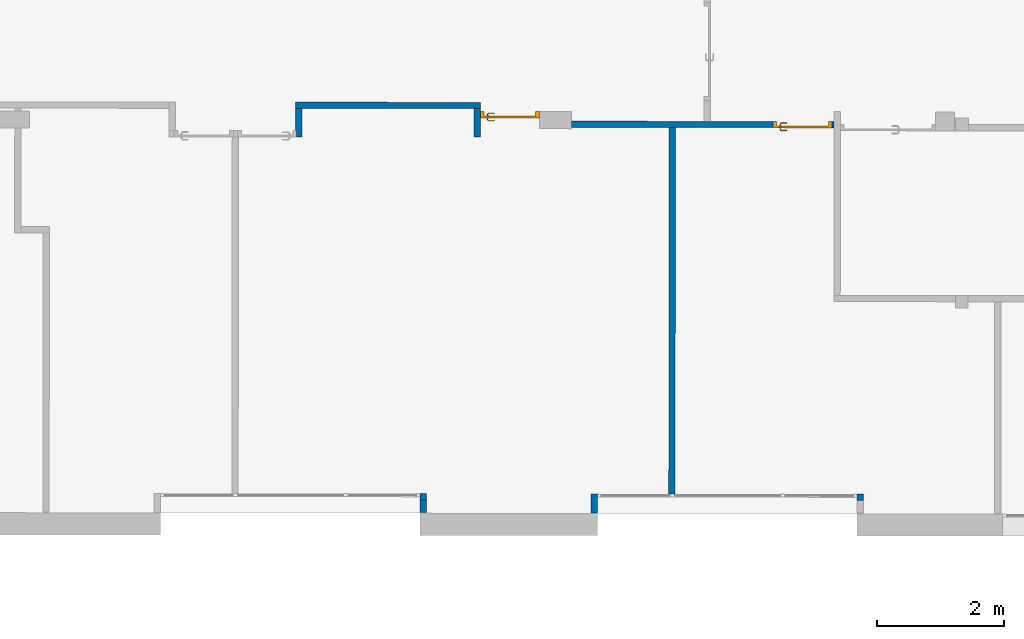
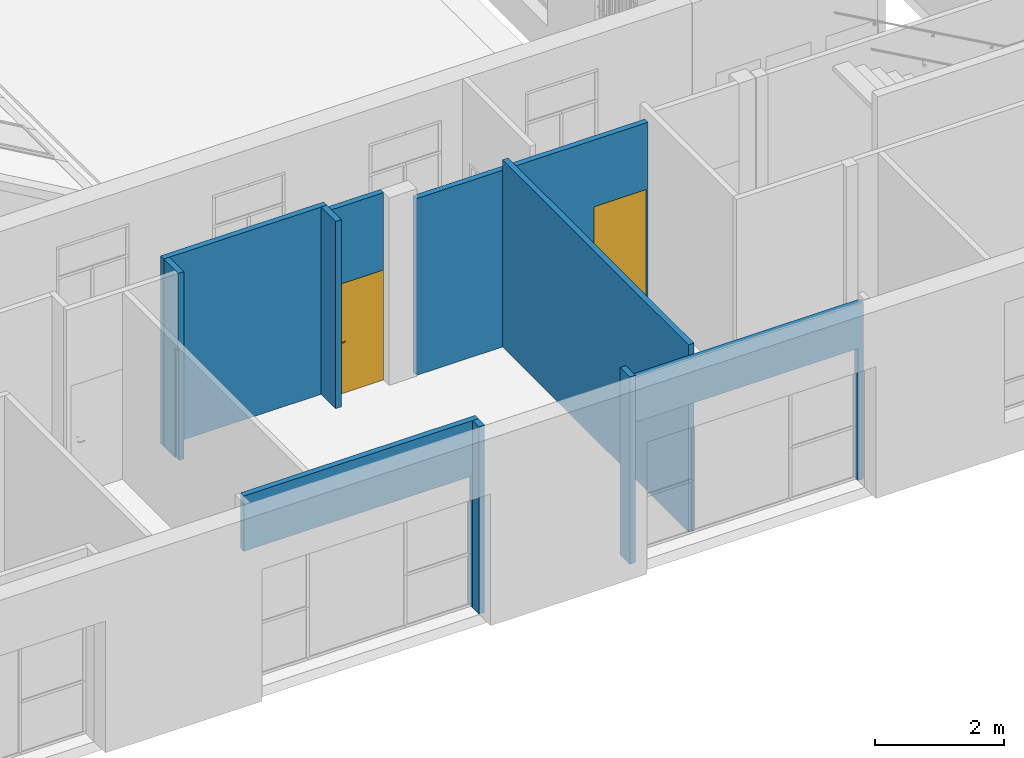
# One storey, part 58 of 101: 10 walls, 2 doors, 6 openings.
"""IFC2X3 building model written with IfcOpenShell, lengths in metres."""

from ifc_helpers import new_model, entity, si_unit, converted_unit, derived_unit, direction, frame, frame_2d, origin, place, context, subcontext, project, spatial, polyline, rectangle, extrude, clip, bounded_halfspace, faceted_brep, source, transform, mapped, material, material_list, layer, layer_set, layer_usage, type_object, type_shapes, element, fill, save


model = new_model("IFC2X3")

# Units and contexts
model_context = context("Model", 3, precision=1e-05, world=origin(), true_north=direction((6.123233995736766e-17, 1.0)))
body_context = subcontext(model_context, "Body", "Model", "MODEL_VIEW")
ifc_project = project(units=[si_unit("LENGTHUNIT", "METRE"), si_unit("AREAUNIT", "SQUARE_METRE"), converted_unit("PLANEANGLEUNIT", "DEGREE", entity("IfcPlaneAngleMeasure", 0.017453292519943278), si_unit("PLANEANGLEUNIT", "RADIAN"), dimensions=[0, 0, 0, 0, 0, 0, 0]), derived_unit("THERMALTRANSMITTANCEUNIT", [(si_unit("MASSUNIT", "GRAM", prefix="KILO"), 1), (si_unit("THERMODYNAMICTEMPERATUREUNIT", "KELVIN"), -1), (si_unit("TIMEUNIT", "SECOND"), -3)])], contexts=[model_context])

# Site, building, storey
site_placement = place(None, frame((1253.6752467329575, 2072.143113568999, 91.49999999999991), z_axis=(0.0, 0.0, 1.0), x_axis=(0.7237211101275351, 0.6900925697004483, 0.0)))
site = spatial("IfcSite", under=ifc_project, at=site_placement, Name="Surface", CompositionType="ELEMENT")
building_placement = place(site_placement, origin())
building = spatial("IfcBuilding", under=site, at=building_placement, CompositionType="ELEMENT")
storey_placement = place(building_placement, origin())
storey = spatial("IfcBuildingStorey", under=building, at=storey_placement, Name="0- Rdc", CompositionType="ELEMENT", Elevation=-5.764692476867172e-13)

# Wall
ifc_material_1 = material(Name="OMD_Béton blanc")
ifc_layer = layer(ifc_material_1, 0.1)
ifc_layer_set = layer_set([ifc_layer], Name="Mur de base:MUR 10")
ifc_layer_usage_1 = layer_usage(ifc_layer_set, "AXIS2", "NEGATIVE", 0.05)
wall_type = type_object("IfcWallType", Name="Mur de base:MUR 10", PredefinedType="STANDARD", material=ifc_layer_set)
wall_1_placement = place(storey_placement, frame((170.40102624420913, -12.305099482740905, 0.0), z_axis=(0.0, 0.0, 1.0), x_axis=(-0.6909838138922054, -0.7228702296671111, 0.0)))
element("IfcWallStandardCase", 1, at=wall_1_placement, inside=storey, type_object=wall_type, material=ifc_layer_usage_1, Name="Mur de base:MUR 10", ObjectType="Mur de base:MUR 10", context=body_context, shape_type="SweptSolid", body=[
    extrude(rectangle(XDim=5.7850000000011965, YDim=0.10000000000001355, at=frame_2d((2.8925000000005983, 6.106226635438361e-16), x_axis=(-1.0, 0.0))), origin(), (0.0, 0.0, 1.0), 3.5499999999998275),
])

# Wall, opening, door
ifc_layer_usage_2 = layer_usage(ifc_layer_set, "AXIS2", "NEGATIVE", 0.05)
wall_2_placement = place(storey_placement, frame((172.28250887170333, -14.034419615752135, 0.0), z_axis=(0.0, 0.0, 1.0), x_axis=(-0.7228702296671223, 0.6909838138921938, 0.0)))
wall_2 = element("IfcWallStandardCase", 2, at=wall_2_placement, inside=storey, type_object=wall_type, material=ifc_layer_usage_2, Name="Mur de base:MUR 10", ObjectType="Mur de base:MUR 10", context=body_context, shape_type="Clipping", body=[
    clip(extrude(rectangle(XDim=4.1500000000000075, YDim=0.10000000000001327, at=frame_2d((2.0750000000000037, 3.434752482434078e-16), x_axis=(-1.0, 0.0))), origin(), (0.0, 0.0, 1.0), 3.3499999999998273), bounded_halfspace(frame((0.0, -0.049999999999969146, 3.3499999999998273), z_axis=(0.0, 0.0, -1.0), x_axis=(0.0, 1.0, 0.0)), True, frame((0.0, -0.049999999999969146, 3.3499999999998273)), polyline([(0.0, 0.0), (4.150000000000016, 0.0), (4.150000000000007, 0.09999999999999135), (0.0, 0.0999999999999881), (0.0, 0.0)]))),
])
opening_1_placement = place(wall_2_placement, frame((0.032500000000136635, -0.04999999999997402, 0.0)))
opening_1 = element("IfcOpeningElement", 3, at=opening_1_placement, cuts=wall_2, Name="OMD_Porte 1V tunnel:80x204:1", ObjectType="Opening", context=body_context, shape_type="SweptSolid", body=[
    extrude(rectangle(XDim=2.0850000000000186, YDim=0.9349999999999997, at=frame_2d((1.0425000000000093, 0.46749999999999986), x_axis=(1.0, 0.0))), frame((0.0, 0.0, 0.0), z_axis=(0.0, 1.0, 0.0), x_axis=(0.0, 0.0, 1.0)), (0.0, 0.0, 1.0), 0.1),
])
ifc_material_2 = material(Name="Porte - Poignée")
ifc_material_3 = material(Name="OMD_Peinture mur")
ifc_material_4 = material(Name="OMD_Bois")
ifc_material_list = material_list([ifc_material_2, ifc_material_3, ifc_material_4])
door_style = type_object("IfcDoorStyle", Name="OMD_Porte 1V tunnel:80x204", ConstructionType="NOTDEFINED", OperationType="NOTDEFINED", ParameterTakesPrecedence=False, Sizeable=False, material=ifc_material_list)
shared_shape = source(origin(), body_context, "Body", "Brep", [
    faceted_brep([(0.21297470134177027, 0.03500000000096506, 1.0077804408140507), (0.20900000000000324, 0.03500000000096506, 1.0069999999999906), (0.208999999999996, 0.03500000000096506, 0.9929999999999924), (0.21297470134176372, 0.03500000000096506, 0.9922195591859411), (0.21702529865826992, 0.03500000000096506, 0.9922195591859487), (0.22100000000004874, 0.03500000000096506, 0.9930000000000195), (0.22100000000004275, 0.03500000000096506, 1.0069999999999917), (0.2170252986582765, 0.03500000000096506, 1.007780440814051), (0.22100000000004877, 0.05748520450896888, 0.9930000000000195), (0.22100000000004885, 0.057485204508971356, 1.0069999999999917), (0.21702529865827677, 0.059131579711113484, 1.007780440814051), (0.23083890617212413, 0.07294518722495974, 1.007780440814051), (0.2291610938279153, 0.07699578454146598, 1.0077804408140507), (0.21297470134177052, 0.060809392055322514, 1.0077804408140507), (0.3206847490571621, 0.0664673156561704, 1.0077804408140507), (0.32354895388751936, 0.06933152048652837, 1.0077804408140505), (0.31588468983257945, 0.07699578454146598, 1.0077804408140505), (0.31420687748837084, 0.07294518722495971, 1.0077804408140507), (0.20900000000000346, 0.06245576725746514, 1.0069999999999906), (0.20900000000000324, 0.06245576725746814, 0.9929999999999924), (0.21297470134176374, 0.06080939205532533, 0.9922195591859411), (0.22916109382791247, 0.07699578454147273, 0.9922195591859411), (0.23083890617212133, 0.07294518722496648, 0.9922195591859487), (0.21702529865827, 0.05913157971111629, 0.9922195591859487), (0.32354895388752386, 0.06933152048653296, 0.9922195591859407), (0.3206847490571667, 0.06646731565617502, 0.9922195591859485), (0.3142068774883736, 0.07294518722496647, 0.9922195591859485), (0.3158846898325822, 0.07699578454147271, 0.9922195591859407), (0.23248528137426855, 0.0689704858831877, 0.9930000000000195), (0.23248528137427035, 0.06897048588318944, 1.0069999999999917), (0.22751471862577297, 0.0809704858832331, 1.0069999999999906), (0.22751471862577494, 0.08097048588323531, 0.9929999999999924), (0.2725228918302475, 0.06897048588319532, 0.9930000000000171), (0.3125605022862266, 0.06897048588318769, 0.9930000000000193), (0.31256050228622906, 0.06897048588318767, 1.0069999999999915), (0.2725228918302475, 0.0689704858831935, 1.0069999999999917), (0.2725228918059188, 0.07512492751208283, 1.0078781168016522), (0.31753106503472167, 0.08097048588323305, 1.0069999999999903), (0.2776005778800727, 0.08097048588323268, 1.0069999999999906), (0.31753106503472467, 0.08097048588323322, 0.9929999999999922), (0.2674452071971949, 0.08097048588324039, 0.9929999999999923), (0.2725228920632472, 0.07512492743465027, 0.9921218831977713), (0.317874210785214, 0.06365677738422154, 0.9930000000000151), (0.32635949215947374, 0.07214205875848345, 0.99299999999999), (0.3263594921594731, 0.07214205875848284, 1.0069999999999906), (0.317874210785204, 0.06365677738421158, 1.0069999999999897)], [[[0, 1, 2, 3, 4, 5, 6, 7]], [[6, 5, 8, 9]], [[9, 10, 7, 6]], [[10, 11, 12, 13, 0, 7]], [[14, 15, 16, 17]], [[13, 18, 1, 0]], [[2, 1, 18, 19]], [[19, 20, 3, 2]], [[20, 21, 22, 23, 4, 3]], [[24, 25, 26, 27]], [[23, 8, 5, 4]], [[9, 8, 28, 29]], [[29, 11, 10, 9]], [[12, 30, 18, 13]], [[19, 18, 30, 31]], [[31, 21, 20, 19]], [[22, 28, 8, 23]], [[29, 28, 32, 33, 34, 35]], [[11, 35, 36]], [[16, 37, 38]], [[30, 12, 38]], [[38, 12, 36]], [[36, 35, 17]], [[17, 16, 36]], [[35, 11, 29]], [[34, 17, 35]], [[11, 36, 12]], [[38, 36, 16]], [[31, 30, 38, 37, 39, 40]], [[40, 41, 21]], [[41, 40, 27]], [[21, 31, 40]], [[39, 27, 40]], [[41, 32, 22]], [[22, 21, 41]], [[26, 32, 41]], [[28, 22, 32]], [[32, 26, 33]], [[26, 41, 27]], [[42, 25, 24, 43, 44, 15, 14, 45]], [[34, 33, 42, 45]], [[45, 14, 17, 34]], [[15, 44, 37, 16]], [[39, 37, 44, 43]], [[43, 24, 27, 39]], [[25, 42, 33, 26]]]),
    faceted_brep([(0.21297470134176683, -0.004999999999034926, 1.0077804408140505), (0.2170252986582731, -0.004999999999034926, 1.007780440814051), (0.2210000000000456, -0.004999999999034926, 1.006999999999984), (0.22100000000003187, -0.004999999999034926, 0.9930000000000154), (0.21702529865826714, -0.004999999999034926, 0.9922195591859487), (0.21297470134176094, -0.004999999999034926, 0.992219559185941), (0.20900000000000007, -0.004999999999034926, 0.992999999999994), (0.20900000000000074, -0.004999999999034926, 1.0069999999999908), (0.20900000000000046, -0.03265095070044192, 1.0069999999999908), (0.21297470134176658, -0.03100457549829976, 1.0077804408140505), (0.22902358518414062, -0.04705345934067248, 1.0077804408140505), (0.2307013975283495, -0.04300286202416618, 1.007780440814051), (0.21702529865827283, -0.02932676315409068, 1.007780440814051), (0.3235218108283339, -0.039389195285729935, 1.0077804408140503), (0.3206576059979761, -0.03652499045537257, 1.0077804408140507), (0.3141797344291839, -0.04300286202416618, 1.0077804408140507), (0.31585754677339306, -0.04705345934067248, 1.0077804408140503), (0.22100000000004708, -0.027680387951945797, 1.0069999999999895), (0.22100000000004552, -0.02768038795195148, 0.9930000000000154), (0.21702529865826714, -0.029326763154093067, 0.9922195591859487), (0.23070139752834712, -0.04300286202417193, 0.9922195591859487), (0.2290235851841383, -0.0470534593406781, 0.992219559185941), (0.21297470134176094, -0.031004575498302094, 0.992219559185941), (0.32065760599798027, -0.036524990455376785, 0.9922195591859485), (0.3235218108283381, -0.03938919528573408, 0.9922195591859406), (0.31585754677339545, -0.047053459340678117, 0.9922195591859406), (0.3141797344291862, -0.04300286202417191, 0.9922195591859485), (0.20899999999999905, -0.032650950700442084, 0.9929999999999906), (0.22737720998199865, -0.051028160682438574, 1.0069999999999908), (0.23234777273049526, -0.03902816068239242, 1.0069999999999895), (0.23234777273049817, -0.03902816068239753, 0.9930000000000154), (0.22737720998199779, -0.051028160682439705, 0.9929999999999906), (0.2673076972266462, -0.05102816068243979, 1.0069999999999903), (0.272440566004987, -0.0451828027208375, 1.0078781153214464), (0.3175039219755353, -0.05102816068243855, 1.0069999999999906), (0.27244056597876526, -0.039028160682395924, 1.0069999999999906), (0.3125333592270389, -0.03902816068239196, 1.0069999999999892), (0.31253335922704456, -0.03902816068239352, 0.9930000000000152), (0.27244056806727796, -0.03902816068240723, 0.9930000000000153), (0.27244056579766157, -0.04518280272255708, 0.9921218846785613), (0.3175039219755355, -0.051028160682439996, 0.9929999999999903), (0.27757344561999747, -0.051028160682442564, 0.9929999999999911), (0.3178470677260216, -0.03371445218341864, 1.0069999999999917), (0.3263323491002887, -0.04219973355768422, 1.0069999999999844), (0.3263323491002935, -0.04219973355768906, 0.9929999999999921), (0.31784706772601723, -0.033714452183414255, 0.9930000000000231)], [[[0, 1, 2, 3, 4, 5, 6, 7]], [[8, 9, 0, 7]], [[9, 10, 11, 12, 1, 0]], [[13, 14, 15, 16]], [[12, 17, 2, 1]], [[3, 2, 17, 18]], [[18, 19, 4, 3]], [[19, 20, 21, 22, 5, 4]], [[23, 24, 25, 26]], [[22, 27, 6, 5]], [[7, 6, 27, 8]], [[28, 10, 9, 8]], [[11, 29, 17, 12]], [[18, 17, 29, 30]], [[30, 20, 19, 18]], [[21, 31, 27, 22]], [[8, 27, 31, 28]], [[32, 33, 10]], [[33, 32, 16]], [[10, 28, 32]], [[34, 16, 32]], [[33, 35, 11]], [[11, 10, 33]], [[15, 35, 33]], [[29, 11, 35]], [[35, 15, 36]], [[15, 33, 16]], [[30, 29, 35, 36, 37, 38]], [[20, 38, 39]], [[25, 40, 41]], [[31, 21, 41]], [[41, 21, 39]], [[39, 38, 26]], [[26, 25, 39]], [[38, 20, 30]], [[37, 26, 38]], [[20, 39, 21]], [[41, 39, 25]], [[28, 31, 41, 40, 34, 32]], [[42, 14, 13, 43, 44, 24, 23, 45]], [[43, 13, 16, 34]], [[14, 42, 36, 15]], [[37, 36, 42, 45]], [[45, 23, 26, 37]], [[24, 44, 40, 25]], [[34, 40, 44, 43]]]),
    faceted_brep([(0.22535276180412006, 0.030000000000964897, 0.8660039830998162), (0.2350000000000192, 0.030000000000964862, 0.8700000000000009), (0.2350000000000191, 0.030000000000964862, 1.0800000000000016), (0.2253527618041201, 0.030000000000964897, 1.0839960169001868), (0.21500000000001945, 0.030000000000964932, 1.0853589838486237), (0.20464723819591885, 0.03000000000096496, 1.0839960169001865), (0.19500000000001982, 0.030000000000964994, 1.0800000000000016), (0.19500000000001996, 0.030000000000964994, 0.8700000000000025), (0.20464723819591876, 0.03000000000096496, 0.866003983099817), (0.21500000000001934, 0.030000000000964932, 0.8646410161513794), (0.22535276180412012, 0.0350000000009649, 1.0839960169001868), (0.2350000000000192, 0.03500000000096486, 1.0800000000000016), (0.23500000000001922, 0.03500000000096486, 0.8700000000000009), (0.22535276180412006, 0.0350000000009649, 0.8660039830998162), (0.21500000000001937, 0.03500000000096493, 0.8646410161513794), (0.20464723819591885, 0.03500000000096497, 0.866003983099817), (0.19500000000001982, 0.035000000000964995, 0.8700000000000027), (0.19500000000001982, 0.035000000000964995, 1.0800000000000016), (0.20464723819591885, 0.03500000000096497, 1.0839960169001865), (0.21500000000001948, 0.03500000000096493, 1.0853589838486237)], [[[0, 1, 2, 3, 4, 5, 6, 7, 8, 9]], [[10, 11, 12, 13, 14, 15, 16, 17, 18, 19]], [[11, 10, 3, 2]], [[3, 10, 19, 4]], [[19, 18, 5, 4]], [[18, 17, 6, 5]], [[7, 6, 17, 16]], [[16, 15, 8, 7]], [[8, 15, 14, 9]], [[14, 13, 0, 9]], [[13, 12, 1, 0]], [[2, 1, 12, 11]]]),
    faceted_brep([(0.22535276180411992, -0.004999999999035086, 0.8660039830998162), (0.2350000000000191, -0.004999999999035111, 0.8700000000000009), (0.23500000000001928, -0.004999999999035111, 1.0800000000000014), (0.22535276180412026, -0.004999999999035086, 1.0839960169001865), (0.2150000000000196, -0.004999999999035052, 1.0853589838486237), (0.20464723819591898, -0.0049999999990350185, 1.0839960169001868), (0.19500000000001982, -0.004999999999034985, 1.0800000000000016), (0.19500000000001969, -0.004999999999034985, 0.8700000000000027), (0.20464723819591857, -0.0049999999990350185, 0.8660039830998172), (0.21500000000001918, -0.004999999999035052, 0.8646410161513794), (0.22535276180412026, 0.0, 1.0839960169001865), (0.2350000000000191, 0.0, 1.0800000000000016), (0.2350000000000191, 0.0, 0.8700000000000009), (0.22535276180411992, 0.0, 0.8660039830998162), (0.21500000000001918, 0.0, 0.8646410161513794), (0.20464723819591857, 0.0, 0.8660039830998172), (0.19500000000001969, 0.0, 0.8700000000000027), (0.19500000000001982, 0.0, 1.0800000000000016), (0.20464723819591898, 0.0, 1.0839960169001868), (0.2150000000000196, 0.0, 1.0853589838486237)], [[[0, 1, 2, 3, 4, 5, 6, 7, 8, 9]], [[10, 11, 12, 13, 14, 15, 16, 17, 18, 19]], [[16, 15, 8, 7]], [[8, 15, 14, 9]], [[14, 13, 0, 9]], [[13, 12, 1, 0]], [[2, 1, 12, 11]], [[11, 10, 3, 2]], [[3, 10, 19, 4]], [[19, 18, 5, 4]], [[18, 17, 6, 5]], [[7, 6, 17, 16]]]),
    faceted_brep([(0.14500000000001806, 0.030000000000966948, 0.0), (0.9900000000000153, 0.030000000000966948, 0.0), (0.9900000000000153, 0.0, 0.0), (0.14500000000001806, 0.0, 0.0), (0.14500000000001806, 0.030000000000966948, 2.04), (0.14500000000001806, 0.0, 2.04), (0.9900000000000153, 0.0, 2.04), (0.9900000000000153, 0.030000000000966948, 2.04)], [[[0, 1, 2, 3]], [[4, 0, 3, 5]], [[5, 3, 2, 6]], [[6, 2, 1, 7]], [[7, 1, 0, 4]], [[4, 5, 6, 7]]]),
    faceted_brep([(0.10000000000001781, 0.0, 0.0), (0.10000000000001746, 0.10000000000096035, 0.0), (0.16000000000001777, 0.10000000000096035, 0.0), (0.16000000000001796, 0.03000000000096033, 0.0), (0.145000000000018, 0.03000000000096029, 0.0), (0.14500000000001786, 0.0, 0.0), (0.145000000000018, 0.0, 2.04), (0.9900000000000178, 0.0, 2.0400000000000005), (0.9900000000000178, 0.0, 0.0), (1.0350000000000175, 0.0, 0.0), (1.0350000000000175, 0.0, 2.085), (0.10000000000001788, 0.0, 2.085), (0.14500000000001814, 0.030000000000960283, 2.04), (0.16000000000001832, 0.03000000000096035, 2.0249999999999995), (0.9750000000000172, 0.03000000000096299, 2.0249999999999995), (0.9750000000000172, 0.03000000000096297, 0.0), (0.9900000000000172, 0.03000000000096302, 0.0), (0.9900000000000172, 0.03000000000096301, 2.0399999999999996), (0.16000000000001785, 0.10000000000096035, 2.0249999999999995), (0.1000000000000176, 0.10000000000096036, 2.085), (1.0350000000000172, 0.10000000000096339, 2.085), (1.0350000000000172, 0.10000000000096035, 0.0), (0.9750000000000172, 0.10000000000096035, 0.0), (0.9750000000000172, 0.10000000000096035, 2.025)], [[[0, 1, 2, 3, 4, 5]], [[5, 6, 7, 8, 9, 10, 11, 0]], [[4, 12, 6, 5]], [[3, 13, 14, 15, 16, 17, 12, 4]], [[2, 18, 13, 3]], [[1, 19, 20, 21, 22, 23, 18, 2]], [[0, 11, 19, 1]], [[10, 9, 21, 20]], [[9, 8, 16, 15, 22, 21]], [[17, 16, 8, 7]], [[23, 22, 15, 14]], [[12, 17, 7, 6]], [[18, 23, 14, 13]], [[11, 10, 20, 19]]]),
])
type_shapes(door_style, [shared_shape])
door_1_placement = place(opening_1_placement, frame((1.035000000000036, 0.10000000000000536, 0.0), z_axis=(0.0, 0.0, 1.0), x_axis=(-1.0, 0.0, 0.0)))
door_1 = element("IfcDoor", 4, at=door_1_placement, inside=storey, type_object=door_style, material=ifc_material_list, Name="OMD_Porte 1V tunnel:80x204", ObjectType="OMD_Porte 1V tunnel:80x204", OverallHeight=2.0850000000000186, OverallWidth=0.9349999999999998, context=body_context, shape_type="MappedRepresentation", body=[
    mapped(shared_shape, transform((0.0, 0.0, 0.0), scale=1.0)),
])
fill(opening_1, door_1)

# Wall
ifc_layer_usage_3 = layer_usage(ifc_layer_set, "AXIS2", "NEGATIVE", 0.05)
wall_3_placement = place(storey_placement, frame((166.33833779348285, -7.944355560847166, 0.0), z_axis=(0.0, 0.0, 1.0), x_axis=(0.7228702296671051, -0.6909838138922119, 0.0)))
element("IfcWallStandardCase", 5, at=wall_3_placement, inside=storey, type_object=wall_type, material=ifc_layer_usage_3, Name="Mur de base:MUR 10", ObjectType="Mur de base:MUR 10", context=body_context, shape_type="SweptSolid", body=[
    extrude(rectangle(XDim=2.9199999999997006, YDim=0.10000000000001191, at=frame_2d((1.4599999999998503, -2.789435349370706e-15), x_axis=(-1.0, 0.0))), origin(), (0.0, 0.0, 1.0), 3.5499999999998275),
])

# Wall, opening
ifc_layer_usage_4 = layer_usage(ifc_layer_set, "AXIS2", "NEGATIVE", 0.05)
wall_4_placement = place(storey_placement, frame((168.3784261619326, -9.963622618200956, 0.0), z_axis=(0.0, 0.0, 1.0), x_axis=(-0.6909838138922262, -0.7228702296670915, 0.0)))
wall_4 = element("IfcWallStandardCase", 6, at=wall_4_placement, inside=storey, type_object=wall_type, material=ifc_layer_usage_4, Name="Mur de base:MUR 10", ObjectType="Mur de base:MUR 10", context=body_context, shape_type="SweptSolid", body=[
    extrude(rectangle(XDim=0.45000000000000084, YDim=0.1000000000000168, at=frame_2d((0.22500000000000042, 2.4945323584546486e-15), x_axis=(-1.0, 0.0))), origin(), (0.0, 0.0, 1.0), 3.5499999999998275),
])
opening_2_placement = place(wall_4_placement, frame((109.14436091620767, -128.60045354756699, 0.0)))
element("IfcOpeningElement", 7, at=opening_2_placement, cuts=wall_4, Name="Mur de base:MUR 10", ObjectType="Opening", context=body_context, shape_type="SweptSolid", body=[
    extrude(rectangle(XDim=2.0850000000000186, YDim=0.10000000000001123, at=frame_2d((-7.840950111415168e-16, -1.1102230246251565e-16), x_axis=(0.0, 1.0))), frame((-109.0493609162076, 128.64795354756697, 1.0425000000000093), z_axis=(0.0, 1.0, 0.0), x_axis=(1.0, 0.0, 0.0)), (0.0, 0.0, 1.0), 0.9350000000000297),
])

# Wall, opening, door
ifc_layer_usage_5 = layer_usage(ifc_layer_set, "AXIS2", "NEGATIVE", 0.05)
wall_5_placement = place(storey_placement, frame((168.34892621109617, -10.066844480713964, 0.0), z_axis=(0.0, 0.0, 1.0), x_axis=(0.7228702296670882, -0.6909838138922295, 0.0)))
wall_5 = element("IfcWallStandardCase", 8, at=wall_5_placement, inside=storey, type_object=wall_type, material=ifc_layer_usage_5, Name="Mur de base:MUR 10", ObjectType="Mur de base:MUR 10", context=body_context, shape_type="SweptSolid", body=[
    extrude(rectangle(XDim=0.9350000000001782, YDim=0.10000000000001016, at=frame_2d((0.4675000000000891, -9.367506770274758e-17), x_axis=(-1.0, 0.0))), origin(), (0.0, 0.0, 1.0), 3.5499999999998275),
])
opening_3_placement = place(wall_5_placement, frame((0.932500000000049, 0.0500000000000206, 0.0)))
opening_3 = element("IfcOpeningElement", 9, at=opening_3_placement, cuts=wall_5, Name="OMD_Porte 1V tunnel:80x204:1", ObjectType="Opening", context=body_context, shape_type="SweptSolid", body=[
    extrude(rectangle(XDim=2.0850000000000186, YDim=0.9349999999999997, at=frame_2d((1.0425000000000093, 0.46749999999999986), x_axis=(1.0, 0.0))), frame((0.0, 0.0, 0.0), z_axis=(0.0, -1.0, 0.0), x_axis=(0.0, 0.0, 1.0)), (0.0, 0.0, 1.0), 0.09999999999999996),
])
door_2_placement = place(opening_3_placement, frame((-1.0350000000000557, -0.10000000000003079, 0.0)))
door_2 = element("IfcDoor", 10, at=door_2_placement, inside=storey, type_object=door_style, material=ifc_material_list, Name="OMD_Porte 1V tunnel:80x204", ObjectType="OMD_Porte 1V tunnel:80x204", OverallHeight=2.0850000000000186, OverallWidth=0.9349999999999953, context=body_context, shape_type="MappedRepresentation", body=[
    mapped(shared_shape, transform((0.0, 0.0, 0.0), scale=1.0)),
])
fill(opening_3, door_2)

# Wall, opening
ifc_layer_usage_6 = layer_usage(ifc_layer_set, "AXIS2", "NEGATIVE", 0.05)
wall_6_placement = place(storey_placement, frame((166.33993211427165, -8.015048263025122, 0.0), z_axis=(0.0, 0.0, 1.0), x_axis=(-0.6909838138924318, -0.7228702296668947, 0.0)))
wall_6 = element("IfcWallStandardCase", 11, at=wall_6_placement, inside=storey, type_object=wall_type, material=ifc_layer_usage_6, Name="Mur de base:MUR 10", ObjectType="Mur de base:MUR 10", context=body_context, shape_type="SweptSolid", body=[
    extrude(rectangle(XDim=0.4500000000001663, YDim=0.09999999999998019, at=frame_2d((0.22500000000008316, 1.863093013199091e-15), x_axis=(-1.0, 0.0))), origin(), (0.0, 0.0, 1.0), 3.5499999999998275),
])
opening_4_placement = place(wall_6_placement, frame((109.14436091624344, -125.78045354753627, 0.0)))
element("IfcOpeningElement", 12, at=opening_4_placement, cuts=wall_6, Name="Mur de base:MUR 10", ObjectType="Opening", context=body_context, shape_type="SweptSolid", body=[
    extrude(rectangle(XDim=2.0850000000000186, YDim=0.10000000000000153, at=frame_2d((3.920475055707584e-16, 1.1102230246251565e-16), x_axis=(0.0, 1.0))), frame((-108.74436091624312, 124.81295354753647, 1.0425000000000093), z_axis=(0.0, 1.0, 0.0), x_axis=(-1.0, 0.0, 0.0)), (0.0, 0.0, 1.0), 0.9349999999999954),
])

ifc_layer_usage_7 = layer_usage(ifc_layer_set, "AXIS2", "NEGATIVE", 0.05)
wall_7_placement = place(storey_placement, frame((165.51976317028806, -15.711141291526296, 0.0), z_axis=(0.0, 0.0, 1.0), x_axis=(0.7228702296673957, -0.6909838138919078, 0.0)))
wall_7 = element("IfcWallStandardCase", 13, at=wall_7_placement, inside=storey, type_object=wall_type, material=ifc_layer_usage_7, Name="Mur de base:MUR 10", ObjectType="Mur de base:MUR 10", context=body_context, shape_type="Clipping", body=[
    clip(extrude(rectangle(XDim=4.199999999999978, YDim=0.0999999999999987, at=frame_2d((2.1000000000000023, -2.0056872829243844e-14), x_axis=(1.0, 0.0))), origin(), (0.0, 0.0, 1.0), 3.3499999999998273), bounded_halfspace(frame((0.0, -0.050000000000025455, 3.3499999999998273), z_axis=(0.0, 0.0, -1.0), x_axis=(0.0, -1.0, 0.0)), True, frame((0.0, -0.050000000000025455, 3.3499999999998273)), polyline([(0.0, 0.0), (4.199999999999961, 0.0), (4.20000000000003, 0.10000000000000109), (0.0, 0.10000000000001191), (0.0, 0.0)]))),
])
opening_5_placement = place(wall_7_placement, frame((1.957580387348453, -2.250315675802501, 0.0)))
element("IfcOpeningElement", 14, at=opening_5_placement, cuts=wall_7, Name="Mur de base:MUR 10", ObjectType="Opening", context=body_context, shape_type="SweptSolid", body=[
    extrude(rectangle(XDim=2.4999999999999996, YDim=4.09999999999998, at=frame_2d((-8.881784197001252e-16, 0.0), x_axis=(0.0, 1.0))), frame((0.09241961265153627, 2.0479156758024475, 1.2499999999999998), z_axis=(0.0, 1.0, 0.0), x_axis=(-1.0, 0.0, 0.0)), (0.0, 0.0, 1.0), 0.4047999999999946),
])

# Walls
ifc_layer_usage_8 = layer_usage(ifc_layer_set, "AXIS2", "NEGATIVE", 0.05)
wall_8_placement = place(storey_placement, frame((165.31087370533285, -15.857309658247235, 0.0), z_axis=(0.0, 0.0, 1.0), x_axis=(0.6909838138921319, 0.7228702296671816, 0.0)))
element("IfcWallStandardCase", 15, at=wall_8_placement, inside=storey, type_object=wall_type, material=ifc_layer_usage_8, Name="Mur de base:MUR 10", ObjectType="Mur de base:MUR 10", context=body_context, shape_type="SweptSolid", body=[
    extrude(rectangle(XDim=0.2999999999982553, YDim=0.10000000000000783, at=frame_2d((0.14999999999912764, 2.8102520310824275e-15), x_axis=(-1.0, 0.0))), origin(), (0.0, 0.0, 1.0), 3.5499999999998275),
])
ifc_layer_usage_9 = layer_usage(ifc_layer_set, "AXIS2", "NEGATIVE", 0.05)
wall_9_placement = place(storey_placement, frame((163.4973208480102, -13.847079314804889, 0.0), z_axis=(0.0, 0.0, 1.0), x_axis=(-0.6909838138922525, -0.7228702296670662, 0.0)))
element("IfcWallStandardCase", 16, at=wall_9_placement, inside=storey, type_object=wall_type, material=ifc_layer_usage_9, Name="Mur de base:MUR 10", ObjectType="Mur de base:MUR 10", context=body_context, shape_type="SweptSolid", body=[
    extrude(rectangle(XDim=0.20000000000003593, YDim=0.1000000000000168, at=frame_2d((0.10000000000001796, 4.475586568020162e-16), x_axis=(-1.0, 0.0))), origin(), (0.0, 0.0, 1.0), 3.5499999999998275),
])

# Wall, opening
ifc_layer_usage_10 = layer_usage(ifc_layer_set, "AXIS2", "NEGATIVE", 0.05)
wall_10_placement = place(storey_placement, frame((160.53195858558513, -10.943352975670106, 0.0), z_axis=(0.0, 0.0, 1.0), x_axis=(0.7228702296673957, -0.6909838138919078, 0.0)))
wall_10 = element("IfcWallStandardCase", 17, at=wall_10_placement, inside=storey, type_object=wall_type, material=ifc_layer_usage_10, Name="Mur de base:MUR 10", ObjectType="Mur de base:MUR 10", context=body_context, shape_type="SweptSolid", body=[
    extrude(rectangle(XDim=4.200000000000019, YDim=0.09999999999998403, at=frame_2d((2.1000000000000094, -2.6749435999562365e-15), x_axis=(-1.0, 0.0))), origin(), (0.0, 0.0, 1.0), 3.5499999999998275),
])
opening_6_placement = place(wall_10_placement, frame((1.957580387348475, -2.250315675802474, 0.0)))
element("IfcOpeningElement", 18, at=opening_6_placement, cuts=wall_10, Name="Mur de base:MUR 10", ObjectType="Opening", context=body_context, shape_type="SweptSolid", body=[
    extrude(rectangle(XDim=2.4999999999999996, YDim=4.09999999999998, at=frame_2d((-8.881784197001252e-16, 0.0), x_axis=(0.0, 1.0))), frame((0.0924196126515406, 2.0479156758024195, 1.2499999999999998), z_axis=(0.0, 1.0, 0.0), x_axis=(-1.0, 0.0, 0.0)), (0.0, 0.0, 1.0), 0.40480000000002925),
])

save(model, "model.ifc")
